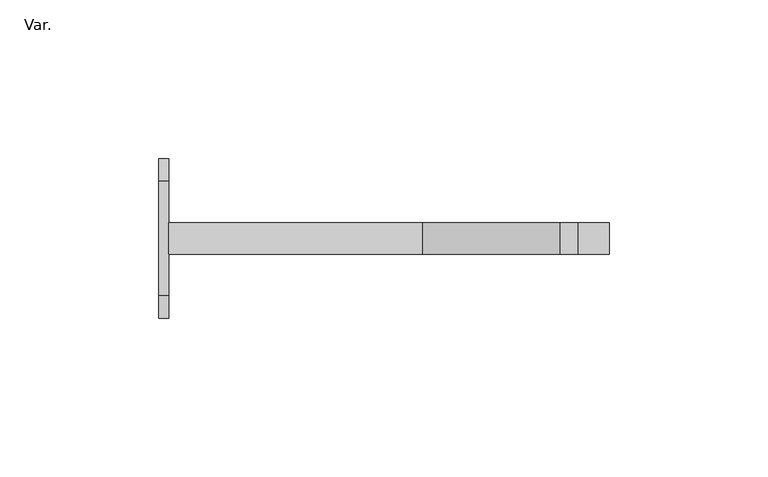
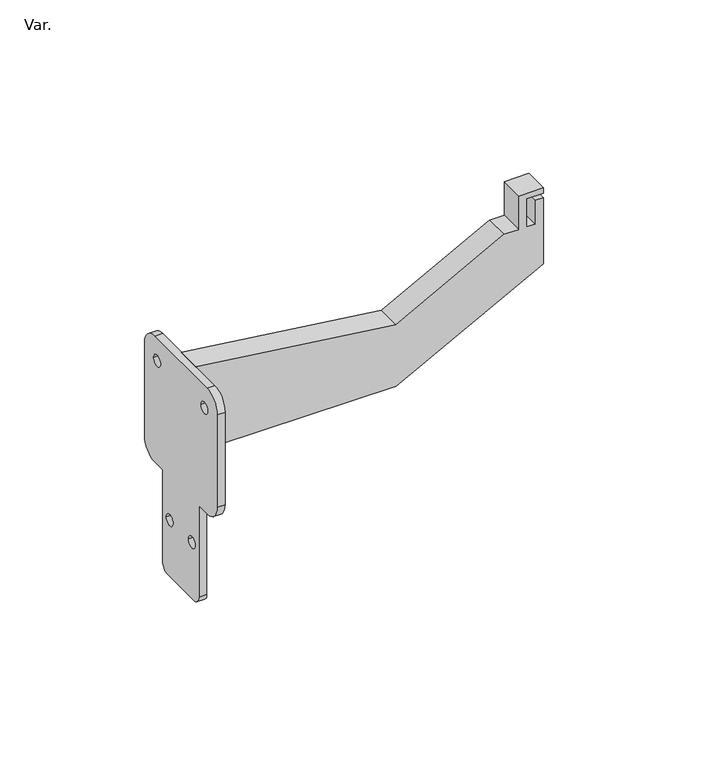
"""IFC4 building model written with IfcOpenShell, lengths in millimetres: pipe fitting geometry, AmancoWavin_Unionesdetubería_CanalesyBajantesZ_NoUsarSoporteInternoCanoa : Var.."""

from ifc_helpers import new_model, si_unit, point, frame, frame_2d, origin, place, context, project, spatial, polyline, circle_curve, trimmed, segment, composite_curve, outline, extrude, source, transform, mapped, element, save


def var_93b2cf93(model_context):
    return source(origin(), model_context, "Body", "SweptSolid", [
        extrude(outline(polyline([(76.9946109, 8.4), (58.8946109, 8.4), (58.8946109, 80.05), (89.9558063, 138.85), (117.7787285, 138.85), (117.7787285, 135.7), (107.817149, 135.7), (107.817149, 132.1492188), (119.8169346, 132.1492188), (119.8169346, 138.85), (122.0, 138.85), (122.0, 128.9992187), (107.817149, 128.9992187), (107.817149, 123.1782563), (84.7411058, 80.05), (95.0946109, 0.0), (76.9946109, 0.0), (76.9946109, 8.4)])), frame((0.0, -5.0, 0.0), z_axis=(0.0, 1.0, 0.0), x_axis=(0.0, 0.0, 1.0)), (0.0, 0.0, 1.0), 10.0),
        extrude(outline(composite_curve([segment(polyline([(-18.125, 95.1), (18.125, 95.1)]), True, "CONTINUOUS"), segment(trimmed(circle_curve(frame_2d((18.125, 88.1)), 7.0), [point((18.125, 95.1))], [point((25.125, 88.1))], False, "CARTESIAN"), True, "CONTINUOUS"), segment(polyline([(25.125, 88.1), (25.125, 49.0)]), True, "CONTINUOUS"), segment(trimmed(circle_curve(frame_2d((18.125, 49.0)), 7.0), [point((25.125, 49.0))], [point((18.125, 42.0))], False, "CARTESIAN"), True, "CONTINUOUS"), segment(polyline([(18.125, 42.0), (12.55, 42.0), (12.55, 3.5)]), True, "CONTINUOUS"), segment(trimmed(circle_curve(frame_2d((9.05, 3.5)), 3.5), [point((12.55, 3.5))], [point((9.05, 0.0))], False, "CARTESIAN"), True, "CONTINUOUS"), segment(polyline([(9.05, 0.0), (-9.05, 0.0)]), True, "CONTINUOUS"), segment(trimmed(circle_curve(frame_2d((-9.05, 3.5)), 3.5), [point((-9.05, 0.0))], [point((-12.55, 3.5))], False, "CARTESIAN"), True, "CONTINUOUS"), segment(polyline([(-12.55, 3.5), (-12.55, 42.0), (-18.125, 42.0)]), True, "CONTINUOUS"), segment(trimmed(circle_curve(frame_2d((-18.125, 49.0)), 7.0), [point((-18.125, 42.0))], [point((-25.125, 49.0))], False, "CARTESIAN"), True, "CONTINUOUS"), segment(polyline([(-25.125, 49.0), (-25.125, 88.1)]), True, "CONTINUOUS"), segment(trimmed(circle_curve(frame_2d((-18.125, 88.1)), 7.0), [point((-25.125, 88.1))], [point((-18.125, 95.1))], False, "CARTESIAN"), True, "CONTINUOUS")], self_intersect=False), holes=[composite_curve([segment(trimmed(circle_curve(frame_2d((16.3635424, 85.7258609)), 2.325), [point((14.0385424, 85.7258609))], [point((18.6885424, 85.7258609))], True, "CARTESIAN"), True, "CONTINUOUS"), segment(trimmed(circle_curve(frame_2d((16.3635424, 85.7258609)), 2.325), [point((18.6885424, 85.7258609))], [point((14.0385424, 85.7258609))], True, "CARTESIAN"), True, "CONTINUOUS")], self_intersect=False), composite_curve([segment(trimmed(circle_curve(frame_2d((-16.3635424, 85.7258609)), 2.325), [point((-18.6885424, 85.7258609))], [point((-14.0385424, 85.7258609))], True, "CARTESIAN"), True, "CONTINUOUS"), segment(trimmed(circle_curve(frame_2d((-16.3635424, 85.7258609)), 2.325), [point((-14.0385424, 85.7258609))], [point((-18.6885424, 85.7258609))], True, "CARTESIAN"), True, "CONTINUOUS")], self_intersect=False), composite_curve([segment(trimmed(circle_curve(frame_2d((7.6958438, 23.7343762)), 2.325), [point((5.3708438, 23.7343762))], [point((10.0208438, 23.7343762))], True, "CARTESIAN"), True, "CONTINUOUS"), segment(trimmed(circle_curve(frame_2d((7.6958438, 23.7343762)), 2.325), [point((10.0208438, 23.7343762))], [point((5.3708438, 23.7343762))], True, "CARTESIAN"), True, "CONTINUOUS")], self_intersect=False), composite_curve([segment(trimmed(circle_curve(frame_2d((-7.6958438, 23.7343762)), 2.325), [point((-10.0208438, 23.7343762))], [point((-5.3708438, 23.7343762))], True, "CARTESIAN"), True, "CONTINUOUS"), segment(trimmed(circle_curve(frame_2d((-7.6958438, 23.7343762)), 2.325), [point((-5.3708438, 23.7343762))], [point((-10.0208438, 23.7343762))], True, "CARTESIAN"), True, "CONTINUOUS")], self_intersect=False)]), frame((-3.15, 0.0, 0.0), z_axis=(1.0, 0.0, 0.0), x_axis=(0.0, 1.0, 0.0)), (0.0, 0.0, 1.0), 3.15),
    ])


if __name__ == "__main__":
    model = new_model("IFC4")
    model_context = context("Model", 3, world=origin())
    ifc_project = project(units=[si_unit("LENGTHUNIT", "METRE", prefix="MILLI")], contexts=[model_context])
    site = spatial("IfcSite", under=ifc_project)
    building = spatial("IfcBuilding", under=site)
    placement = place(None, origin())
    var_shape = var_93b2cf93(model_context)
    element("IfcPipeFitting", 1, ObjectType="AmancoWavin_Unionesdetubería_CanalesyBajantesZ_NoUsarSoporteInternoCanoa : Var.", at=placement, inside=building, context=model_context, shape_type="MappedRepresentation", body=[
        mapped(var_shape, transform((0.0, 0.0, 0.0), x_axis=(1.0, 0.0, 0.0), y_axis=(0.0, 1.0, 0.0), z_axis=(0.0, 0.0, 1.0))),
    ])
    save(model, "model.ifc")
